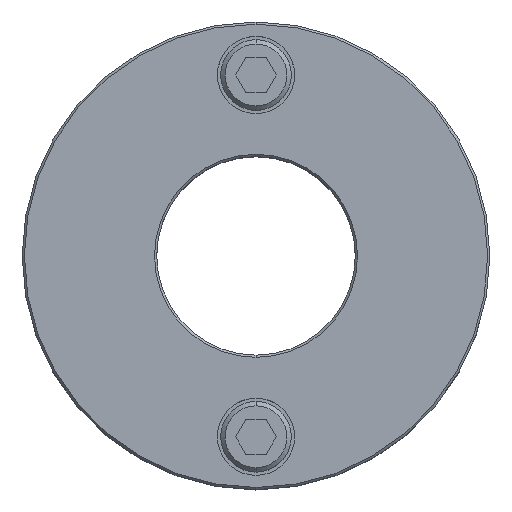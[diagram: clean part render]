
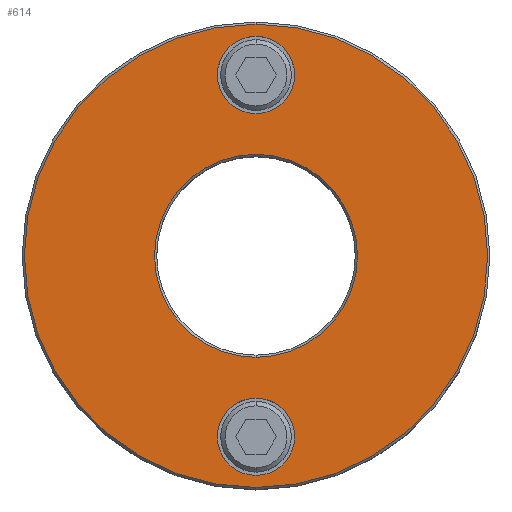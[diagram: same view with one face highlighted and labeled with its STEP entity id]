
A CAD part, top view. The second image highlights one B-rep face of the part: STEP entity #614.
In plain terms, the highlighted planar face has unit normal (0, 0, 1).
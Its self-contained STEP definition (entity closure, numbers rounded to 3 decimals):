
#105=VERTEX_POINT(' ',#106);
#106=CARTESIAN_POINT('',(0.,32.25,40.));
#107=VERTEX_POINT(' ',#108);
#108=CARTESIAN_POINT('',(0.,49.75,40.));
#113=VERTEX_POINT(' ',#114);
#114=CARTESIAN_POINT('',(0.,-49.75,40.));
#115=VERTEX_POINT(' ',#116);
#116=CARTESIAN_POINT('',(0.,-32.25,40.));
#123=VERTEX_POINT(' ',#124);
#124=CARTESIAN_POINT('',(0.,52.5,40.));
#125=VERTEX_POINT(' ',#126);
#126=CARTESIAN_POINT('',(0.,-52.5,40.));
#129=VERTEX_POINT(' ',#130);
#130=CARTESIAN_POINT('',(0.,-23.,40.));
#131=VERTEX_POINT(' ',#132);
#132=CARTESIAN_POINT('',(0.,23.,40.));
#221=CIRCLE('',#222,8.75);
#222=AXIS2_PLACEMENT_3D('',#223,#224,#225);
#223=CARTESIAN_POINT('',(0.,41.,40.));
#224=DIRECTION('',(0.,0.,-1.));
#225=DIRECTION('',(-1.,0.,0.));
#226=EDGE_CURVE(' ',#105,#107,#221,.F.);
#243=CIRCLE('',#244,8.75);
#244=AXIS2_PLACEMENT_3D('',#245,#246,#247);
#245=CARTESIAN_POINT('',(0.,41.,40.));
#246=DIRECTION('',(0.,0.,-1.));
#247=DIRECTION('',(1.,0.,0.));
#248=EDGE_CURVE(' ',#107,#105,#243,.F.);
#255=CIRCLE('',#256,8.75);
#256=AXIS2_PLACEMENT_3D('',#257,#258,#259);
#257=CARTESIAN_POINT('',(0.,-41.,40.));
#258=DIRECTION('',(0.,0.,-1.));
#259=DIRECTION('',(-1.,0.,0.));
#260=EDGE_CURVE(' ',#113,#115,#255,.F.);
#277=CIRCLE('',#278,8.75);
#278=AXIS2_PLACEMENT_3D('',#279,#280,#281);
#279=CARTESIAN_POINT('',(0.,-41.,40.));
#280=DIRECTION('',(0.,0.,-1.));
#281=DIRECTION('',(1.,0.,0.));
#282=EDGE_CURVE(' ',#115,#113,#277,.F.);
#294=CIRCLE('',#295,52.5);
#295=AXIS2_PLACEMENT_3D('',#296,#297,#298);
#296=CARTESIAN_POINT('',(0.,0.,40.));
#297=DIRECTION('',(0.,0.,1.));
#298=DIRECTION('',(-1.,0.,0.));
#299=EDGE_CURVE(' ',#123,#125,#294,.F.);
#317=CIRCLE('',#318,52.5);
#318=AXIS2_PLACEMENT_3D('',#319,#320,#321);
#319=CARTESIAN_POINT('',(0.,0.,40.));
#320=DIRECTION('',(0.,0.,1.));
#321=DIRECTION('',(1.,0.,0.));
#322=EDGE_CURVE(' ',#125,#123,#317,.F.);
#323=CIRCLE('',#324,23.);
#324=AXIS2_PLACEMENT_3D('',#325,#326,#327);
#325=CARTESIAN_POINT('',(0.,0.,40.));
#326=DIRECTION('',(0.,0.,-1.));
#327=DIRECTION('',(1.,0.,0.));
#328=EDGE_CURVE(' ',#131,#129,#323,.F.);
#329=CIRCLE('',#330,23.);
#330=AXIS2_PLACEMENT_3D('',#331,#332,#333);
#331=CARTESIAN_POINT('',(0.,0.,40.));
#332=DIRECTION('',(0.,0.,-1.));
#333=DIRECTION('',(-1.,0.,0.));
#334=EDGE_CURVE(' ',#129,#131,#329,.F.);
#593=ORIENTED_EDGE('',*,*,#299,.F.);
#594=ORIENTED_EDGE('',*,*,#322,.F.);
#595=EDGE_LOOP('',(#593,#594));
#596=FACE_OUTER_BOUND('',#595,.T.);
#597=ORIENTED_EDGE('',*,*,#328,.F.);
#598=ORIENTED_EDGE('',*,*,#334,.F.);
#599=EDGE_LOOP('',(#597,#598));
#600=FACE_BOUND('',#599,.T.);
#601=ORIENTED_EDGE('',*,*,#282,.F.);
#602=ORIENTED_EDGE('',*,*,#260,.F.);
#603=EDGE_LOOP('',(#601,#602));
#604=FACE_BOUND('',#603,.T.);
#605=ORIENTED_EDGE('',*,*,#248,.F.);
#606=ORIENTED_EDGE('',*,*,#226,.F.);
#607=EDGE_LOOP('',(#605,#606));
#608=FACE_BOUND('',#607,.T.);
#609=PLANE('',#610);
#610=AXIS2_PLACEMENT_3D('',#611,#612,#613);
#611=CARTESIAN_POINT('',(53.,0.,40.));
#612=DIRECTION('',(0.,0.,1.));
#613=DIRECTION('',(0.,1.,0.));
#614=ADVANCED_FACE('',(#596,#600,#604,#608),#609,.T.);
